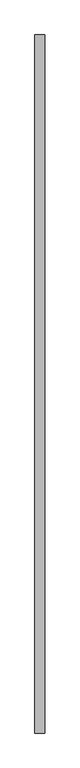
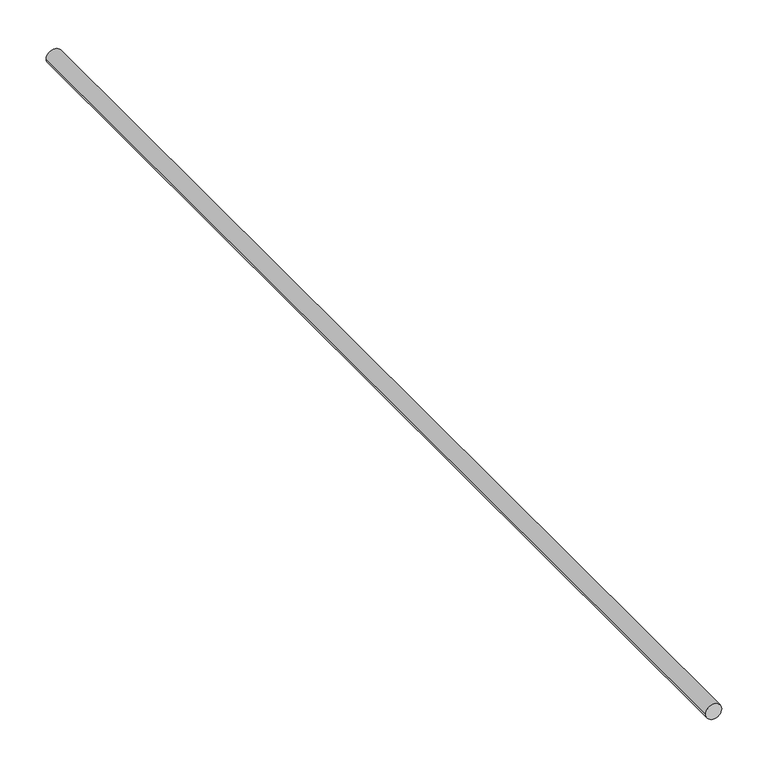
"""IFC4 building model written with IfcOpenShell, lengths in millimetres: proxy geometry, BIMHealth-Birthing_Storage_Pole-LOD2A-v1 : BIMHealth-Birthing_Storage_Pole-LOD2A-v1."""

from ifc_helpers import new_model, si_unit, point, frame, origin, origin_2d, place, context, project, spatial, circle_curve, trimmed, segment, composite_curve, outline, extrude, source, transform, mapped, element, save


def generic_models_657d313a(model_context):
    return source(origin(), model_context, "Body", "SweptSolid", [
        extrude(outline(composite_curve([segment(trimmed(circle_curve(origin_2d(), 10.0), [point((0.0, 10.0))], [point((0.0, -10.0))], False, "CARTESIAN"), True, "CONTINUOUS"), segment(trimmed(circle_curve(origin_2d(), 10.0), [point((0.0, -10.0))], [point((0.0, 10.0))], False, "CARTESIAN"), True, "CONTINUOUS")], self_intersect=False)), frame((0.0, -1425.0, 0.0), z_axis=(0.0, 1.0, 0.0), x_axis=(0.0, 0.0, 1.0)), (0.0, 0.0, 1.0), 1425.0),
    ])


if __name__ == "__main__":
    model = new_model("IFC4")
    model_context = context("Model", 3, world=origin())
    ifc_project = project(units=[si_unit("LENGTHUNIT", "METRE", prefix="MILLI")], contexts=[model_context])
    site = spatial("IfcSite", under=ifc_project)
    building = spatial("IfcBuilding", under=site)
    placement = place(None, origin())
    generic_models_shape = generic_models_657d313a(model_context)
    element("IfcBuildingElementProxy", 1, Name="BIMHealth-Birthing_Storage_Pole-LOD2A-v1 : BIMHealth-Birthing_Storage_Pole-LOD2A-v1", ObjectType="BIMHealth-Birthing_Storage_Pole-LOD2A-v1 : BIMHealth-Birthing_Storage_Pole-LOD2A-v1", at=placement, inside=building, context=model_context, shape_type="MappedRepresentation", body=[
        mapped(generic_models_shape, transform((0.0, 0.0, 0.0), x_axis=(1.0, 0.0, 0.0), y_axis=(0.0, 1.0, 0.0), z_axis=(0.0, 0.0, 1.0))),
    ])
    save(model, "model.ifc")
